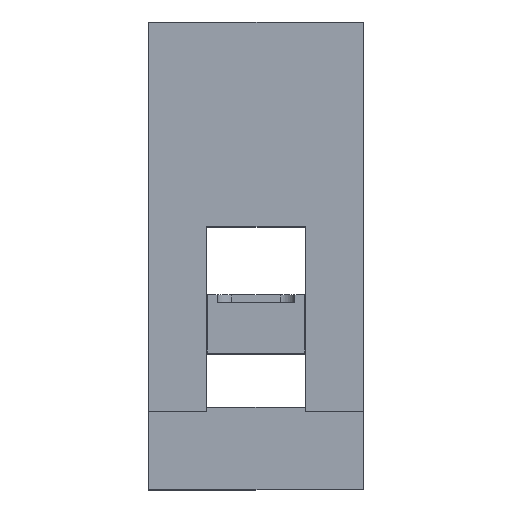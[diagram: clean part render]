
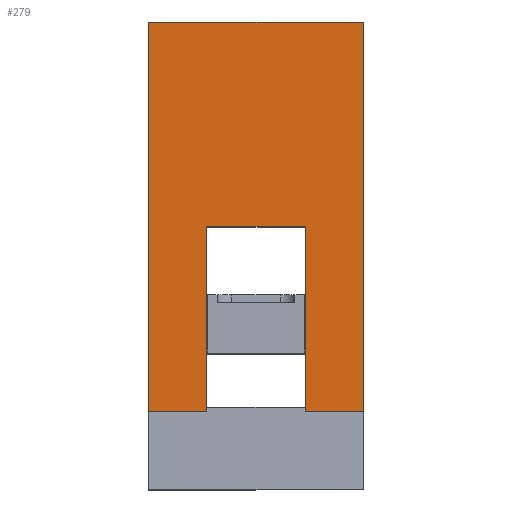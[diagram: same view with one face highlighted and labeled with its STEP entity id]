
A CAD part, top view. The second image highlights one B-rep face of the part: STEP entity #279.
In plain terms, the highlighted planar face has unit normal (0, 0, 1).
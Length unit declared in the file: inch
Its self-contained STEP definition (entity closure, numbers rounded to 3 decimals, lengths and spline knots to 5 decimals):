
#78 = DIRECTION ( 'NONE',  ( 1., 0., 0. ) ) ;
#156 = LINE ( 'NONE', #1794, #3183 ) ;
#265 = CARTESIAN_POINT ( 'NONE',  ( -1.375, 2.5, 2. ) ) ;
#279 = ADVANCED_FACE ( 'NONE', ( #4961 ), #1176, .F. ) ;
#389 = ORIENTED_EDGE ( 'NONE', *, *, #4990, .F. ) ;
#396 = VERTEX_POINT ( 'NONE', #4154 ) ;
#458 = CARTESIAN_POINT ( 'NONE',  ( -1.375, -2.5, 2. ) ) ;
#509 = VERTEX_POINT ( 'NONE', #2215 ) ;
#522 = ORIENTED_EDGE ( 'NONE', *, *, #1680, .T. ) ;
#558 = LINE ( 'NONE', #2684, #3430 ) ;
#624 = CARTESIAN_POINT ( 'NONE',  ( -0.63, -0.125, 2. ) ) ;
#652 = ORIENTED_EDGE ( 'NONE', *, *, #5040, .F. ) ;
#670 = LINE ( 'NONE', #4389, #1719 ) ;
#767 = CARTESIAN_POINT ( 'NONE',  ( 0.63, -2.5, 2. ) ) ;
#794 = CARTESIAN_POINT ( 'NONE',  ( -1.375, 2.5, 2. ) ) ;
#958 = VECTOR ( 'NONE', #3887, 39.37008 ) ;
#1035 = VECTOR ( 'NONE', #78, 39.37008 ) ;
#1173 = VERTEX_POINT ( 'NONE', #2900 ) ;
#1176 = PLANE ( 'NONE',  #1900 ) ;
#1300 = EDGE_CURVE ( 'NONE', #396, #2309, #2048, .T. ) ;
#1310 = LINE ( 'NONE', #767, #3124 ) ;
#1537 = CARTESIAN_POINT ( 'NONE',  ( -1.375, 2.5, 2. ) ) ;
#1567 = DIRECTION ( 'NONE',  ( 0., 0., -1. ) ) ;
#1581 = DIRECTION ( 'NONE',  ( -1., 0., 0. ) ) ;
#1669 = DIRECTION ( 'NONE',  ( 1., 0., 0. ) ) ;
#1680 = EDGE_CURVE ( 'NONE', #509, #2357, #558, .T. ) ;
#1719 = VECTOR ( 'NONE', #1669, 39.37008 ) ;
#1794 = CARTESIAN_POINT ( 'NONE',  ( -0.63, -2.5, 2. ) ) ;
#1900 = AXIS2_PLACEMENT_3D ( 'NONE', #1537, #1567, #1581 ) ;
#1971 = CARTESIAN_POINT ( 'NONE',  ( 1.375, 2.5, 2. ) ) ;
#2048 = LINE ( 'NONE', #458, #1035 ) ;
#2132 = ORIENTED_EDGE ( 'NONE', *, *, #4675, .F. ) ;
#2215 = CARTESIAN_POINT ( 'NONE',  ( 0.63, -2.5, 2. ) ) ;
#2247 = CARTESIAN_POINT ( 'NONE',  ( 1.375, -2.5, 2. ) ) ;
#2302 = DIRECTION ( 'NONE',  ( 1., 0., 0. ) ) ;
#2309 = VERTEX_POINT ( 'NONE', #5022 ) ;
#2357 = VERTEX_POINT ( 'NONE', #2247 ) ;
#2629 = LINE ( 'NONE', #265, #2750 ) ;
#2684 = CARTESIAN_POINT ( 'NONE',  ( -1.375, -2.5, 2. ) ) ;
#2750 = VECTOR ( 'NONE', #3028, 39.37008 ) ;
#2852 = EDGE_LOOP ( 'NONE', ( #4907, #2132, #3280, #389, #522, #652, #4985, #3821 ) ) ;
#2900 = CARTESIAN_POINT ( 'NONE',  ( 1.375, 2.5, 2. ) ) ;
#2907 = VERTEX_POINT ( 'NONE', #794 ) ;
#2943 = VECTOR ( 'NONE', #4528, 39.37008 ) ;
#3028 = DIRECTION ( 'NONE',  ( 0., -1., 0. ) ) ;
#3124 = VECTOR ( 'NONE', #3479, 39.37008 ) ;
#3183 = VECTOR ( 'NONE', #4108, 39.37008 ) ;
#3280 = ORIENTED_EDGE ( 'NONE', *, *, #4721, .F. ) ;
#3430 = VECTOR ( 'NONE', #2302, 39.37008 ) ;
#3479 = DIRECTION ( 'NONE',  ( 0., 1., 0. ) ) ;
#3578 = CARTESIAN_POINT ( 'NONE',  ( -0.63, -0.125, 2. ) ) ;
#3821 = ORIENTED_EDGE ( 'NONE', *, *, #4041, .T. ) ;
#3837 = CARTESIAN_POINT ( 'NONE',  ( 0.63, -0.125, 2. ) ) ;
#3887 = DIRECTION ( 'NONE',  ( 0., -1., 0. ) ) ;
#4041 = EDGE_CURVE ( 'NONE', #2907, #396, #2629, .T. ) ;
#4090 = LINE ( 'NONE', #624, #2943 ) ;
#4108 = DIRECTION ( 'NONE',  ( 0., -1., 0. ) ) ;
#4147 = LINE ( 'NONE', #1971, #958 ) ;
#4154 = CARTESIAN_POINT ( 'NONE',  ( -1.375, -2.5, 2. ) ) ;
#4389 = CARTESIAN_POINT ( 'NONE',  ( -1.375, 2.5, 2. ) ) ;
#4528 = DIRECTION ( 'NONE',  ( -1., 0., 0. ) ) ;
#4675 = EDGE_CURVE ( 'NONE', #5081, #2309, #156, .T. ) ;
#4721 = EDGE_CURVE ( 'NONE', #4958, #5081, #4090, .T. ) ;
#4907 = ORIENTED_EDGE ( 'NONE', *, *, #1300, .T. ) ;
#4958 = VERTEX_POINT ( 'NONE', #3837 ) ;
#4961 = FACE_OUTER_BOUND ( 'NONE', #2852, .T. ) ;
#4985 = ORIENTED_EDGE ( 'NONE', *, *, #5105, .F. ) ;
#4990 = EDGE_CURVE ( 'NONE', #509, #4958, #1310, .T. ) ;
#5022 = CARTESIAN_POINT ( 'NONE',  ( -0.63, -2.5, 2. ) ) ;
#5040 = EDGE_CURVE ( 'NONE', #1173, #2357, #4147, .T. ) ;
#5081 = VERTEX_POINT ( 'NONE', #3578 ) ;
#5105 = EDGE_CURVE ( 'NONE', #2907, #1173, #670, .T. ) ;
